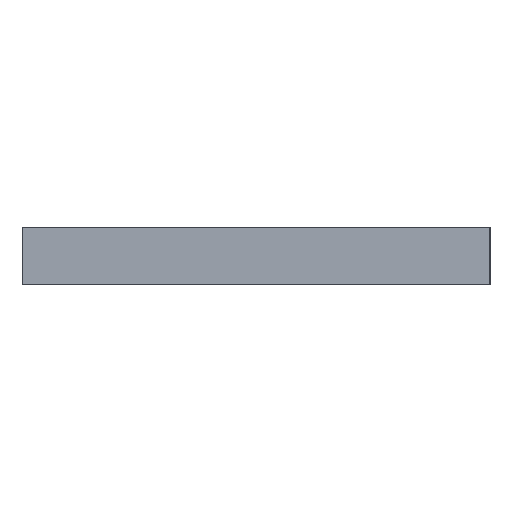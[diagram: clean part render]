
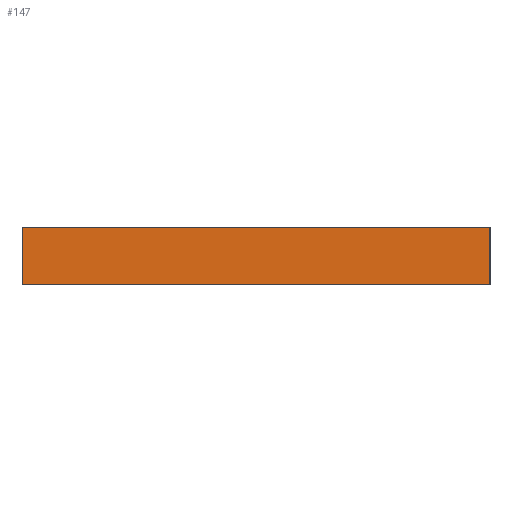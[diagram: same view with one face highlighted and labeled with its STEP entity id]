
A CAD part, left-side view. The second image highlights one B-rep face of the part: STEP entity #147.
In plain terms, the highlighted planar face has unit normal (-1, 0, 0).
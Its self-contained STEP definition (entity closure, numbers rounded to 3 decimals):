
#12 = FACE_OUTER_BOUND ( 'NONE', #174, .T. ) ;
#92 = CARTESIAN_POINT ( 'NONE',  ( -48.5, 24.5, 6. ) ) ;
#106 = CARTESIAN_POINT ( 'NONE',  ( -48.5, 24.5, 6. ) ) ;
#115 = AXIS2_PLACEMENT_3D ( 'NONE', #163, #400, #193 ) ;
#119 = VECTOR ( 'NONE', #249, 1000. ) ;
#126 = DIRECTION ( 'NONE',  ( 0., -1., 0. ) ) ;
#136 = PLANE ( 'NONE',  #115 ) ;
#147 = ADVANCED_FACE ( 'NONE', ( #12 ), #136, .F. ) ;
#156 = LINE ( 'NONE', #215, #119 ) ;
#157 = VECTOR ( 'NONE', #414, 1000. ) ;
#163 = CARTESIAN_POINT ( 'NONE',  ( -48.5, 24.5, 1. ) ) ;
#168 = CARTESIAN_POINT ( 'NONE',  ( -48.5, -24.5, 6. ) ) ;
#174 = EDGE_LOOP ( 'NONE', ( #286, #324, #363, #268 ) ) ;
#193 = DIRECTION ( 'NONE',  ( 0., 0., -1. ) ) ;
#199 = CARTESIAN_POINT ( 'NONE',  ( -48.5, -24.5, 0. ) ) ;
#215 = CARTESIAN_POINT ( 'NONE',  ( -48.5, -24.5, 1. ) ) ;
#229 = CARTESIAN_POINT ( 'NONE',  ( -48.5, 24.5, 0. ) ) ;
#235 = VERTEX_POINT ( 'NONE', #199 ) ;
#247 = VERTEX_POINT ( 'NONE', #168 ) ;
#249 = DIRECTION ( 'NONE',  ( 0., 0., -1. ) ) ;
#268 = ORIENTED_EDGE ( 'NONE', *, *, #385, .T. ) ;
#276 = VERTEX_POINT ( 'NONE', #431 ) ;
#286 = ORIENTED_EDGE ( 'NONE', *, *, #398, .T. ) ;
#303 = VECTOR ( 'NONE', #126, 1000. ) ;
#324 = ORIENTED_EDGE ( 'NONE', *, *, #463, .F. ) ;
#329 = LINE ( 'NONE', #434, #157 ) ;
#330 = DIRECTION ( 'NONE',  ( 0., -1., 0. ) ) ;
#335 = VERTEX_POINT ( 'NONE', #106 ) ;
#355 = LINE ( 'NONE', #92, #303 ) ;
#363 = ORIENTED_EDGE ( 'NONE', *, *, #451, .F. ) ;
#385 = EDGE_CURVE ( 'NONE', #335, #276, #329, .T. ) ;
#398 = EDGE_CURVE ( 'NONE', #276, #235, #443, .T. ) ;
#400 = DIRECTION ( 'NONE',  ( 1., 0., 0. ) ) ;
#414 = DIRECTION ( 'NONE',  ( 0., 0., -1. ) ) ;
#421 = VECTOR ( 'NONE', #330, 1000. ) ;
#431 = CARTESIAN_POINT ( 'NONE',  ( -48.5, 24.5, 0. ) ) ;
#434 = CARTESIAN_POINT ( 'NONE',  ( -48.5, 24.5, 1. ) ) ;
#443 = LINE ( 'NONE', #229, #421 ) ;
#451 = EDGE_CURVE ( 'NONE', #335, #247, #355, .T. ) ;
#463 = EDGE_CURVE ( 'NONE', #247, #235, #156, .T. ) ;
